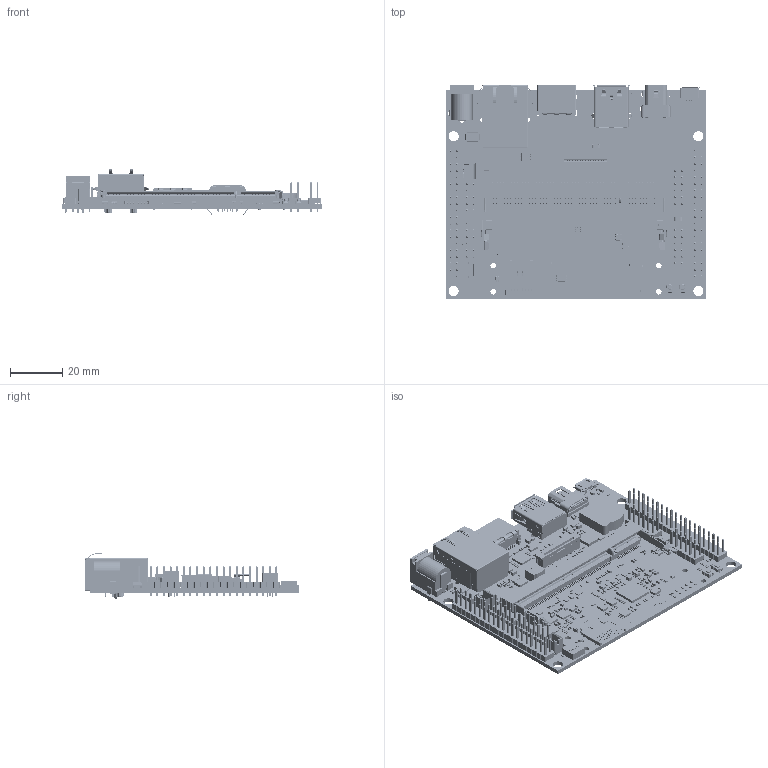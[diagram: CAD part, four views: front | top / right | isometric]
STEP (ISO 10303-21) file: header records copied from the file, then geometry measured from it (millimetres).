
FILE_DESCRIPTION(('Open CASCADE Model'),'2;1');
FILE_NAME('Open CASCADE Shape Model','2019-07-22T17:02:39',('Author'),( 'Open CASCADE'),'Open CASCADE STEP processor 6.8','Open CASCADE 6.8' ,'Unknown');
FILE_SCHEMA(('AUTOMOTIVE_DESIGN { 1 0 10303 214 1 1 1 1 }'));
Products named in the file (1): PCB
Bounding box: 100 x 82 x 17.57 mm (x, y, z)
Volume: 18642 mm3; surface area: 44827.6 mm2
Topology: 491 solids, 10664 shells, 20544 faces, 76346 edges, 66996 vertices
Faces by surface type: plane 17145, cylinder 2379, extrusion 786, bspline 138, sphere 36, torus 26, cone 26, revolution 8
Full cylindrical faces by diameter (mm): 0.2 x27, 0.3 x2, 0.4 x1, 0.55 x20, 0.6 x7, 0.7 x11, 0.8 x2, 0.9 x2, 1 x101, 1.1 x47, 1.3 x6, 1.6 x6, 2.1 x4, 2.3 x2, 3.3 x2, 3.9 x4
Entity records: 890619 total; most frequent: CARTESIAN_POINT 176668, DIRECTION 120268, ORIENTED_EDGE 102034, EDGE_CURVE 76293, VECTOR 68816, LINE 68030, VERTEX_POINT 66952, AXIS2_PLACEMENT_3D 25722
